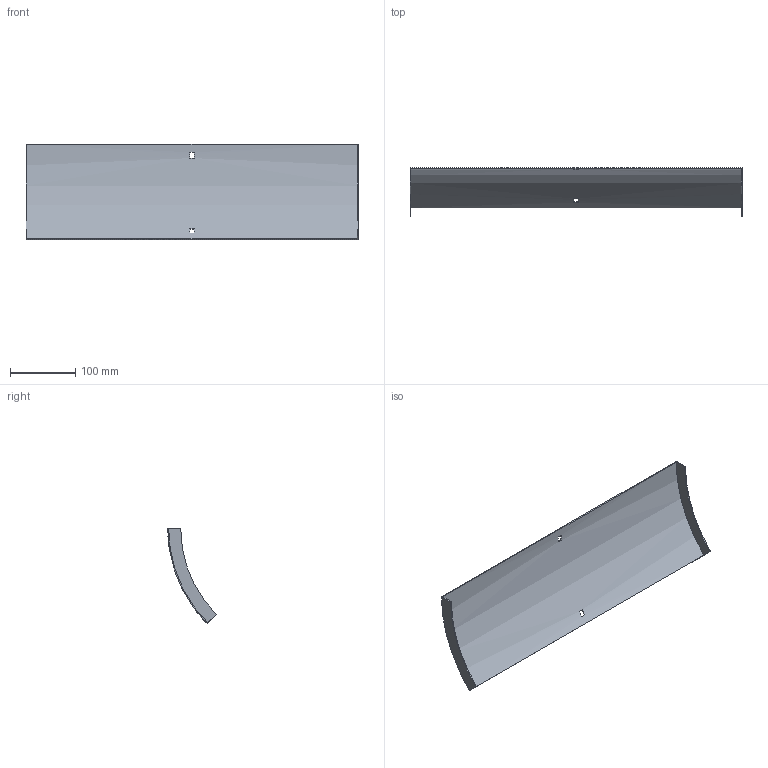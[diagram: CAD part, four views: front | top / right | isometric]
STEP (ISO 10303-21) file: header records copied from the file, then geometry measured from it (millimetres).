
FILE_DESCRIPTION (( 'STEP AP214' ), '1' );
FILE_NAME ('34N1D500.step', '2025-02-21T09:14:07', ( '' ), ( '' ), 'SwSTEP 2.0', 'SolidWorks 2023', '' );
FILE_SCHEMA (( 'AUTOMOTIVE_DESIGN' ));
Length unit declared in the file: millimetre
Products named in the file (1): 34N1D500
Bounding box: 507 x 74.33 x 145.31 mm (x, y, z)
Volume: 130609.2 mm3; surface area: 176309.8 mm2
Topology: 1 solids, 1 shells, 18 faces, 48 edges, 32 vertices
Faces by surface type: plane 14, cylinder 4
Entity records: 599 total; most frequent: DIRECTION 102, CARTESIAN_POINT 99, ORIENTED_EDGE 96, EDGE_CURVE 48, AXIS2_PLACEMENT_3D 35, VECTOR 32, LINE 32, VERTEX_POINT 32
